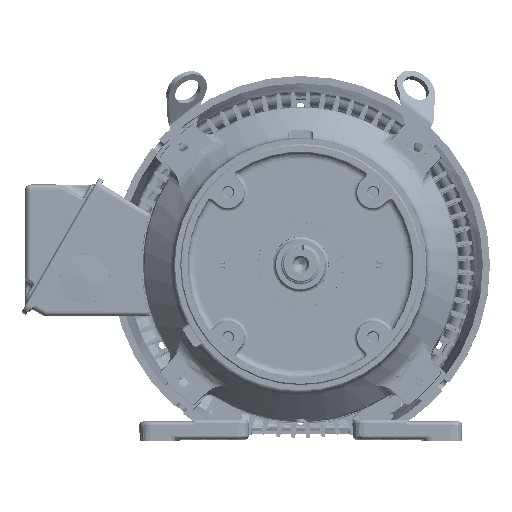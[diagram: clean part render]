
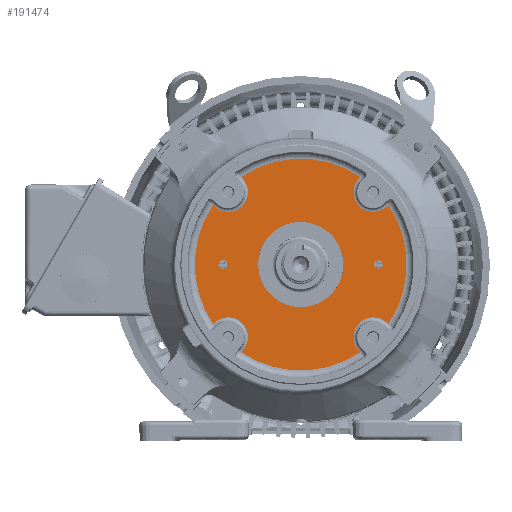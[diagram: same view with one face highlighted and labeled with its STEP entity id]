
A CAD part, top view. The second image highlights one B-rep face of the part: STEP entity #191474.
In plain terms, the highlighted planar face has unit normal (0, 0, 1) as drawn and (0, 0, -1) by its records, which use the part's own axes.
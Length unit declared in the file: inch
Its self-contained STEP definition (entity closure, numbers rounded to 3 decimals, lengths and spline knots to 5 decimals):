
#184343=CARTESIAN_POINT('',(0.,0.,-2.266));
#184344=DIRECTION('',(0.,0.,-1.));
#184345=DIRECTION('',(-0.827,-0.563,0.));
#184346=AXIS2_PLACEMENT_3D('',#184343,#184344,#184345);
#184358=CARTESIAN_POINT('',(0.,0.,-2.266));
#184359=DIRECTION('',(0.,0.,-1.));
#184360=DIRECTION('',(0.563,-0.827,0.));
#184361=AXIS2_PLACEMENT_3D('',#184358,#184359,#184360);
#184363=CARTESIAN_POINT('',(0.,0.,-2.266));
#184364=DIRECTION('',(0.,0.,-1.));
#184365=DIRECTION('',(-0.563,0.827,0.));
#184366=AXIS2_PLACEMENT_3D('',#184363,#184364,#184365);
#184373=CARTESIAN_POINT('',(0.,0.,-2.266));
#184374=DIRECTION('',(0.,0.,-1.));
#184375=DIRECTION('',(0.827,0.563,0.));
#184376=AXIS2_PLACEMENT_3D('',#184373,#184374,#184375);
#184398=CARTESIAN_POINT('',(-3.09494,-2.10574,
-2.266));
#184417=DIRECTION('',(-0.725,-0.688,
0.));
#184418=VECTOR('',#184417,0.07073);
#184419=CARTESIAN_POINT('',(-3.04364,-2.05705,-2.266));
#184420=LINE('',#184419,#184418);
#184431=CARTESIAN_POINT('',(-2.56326,-2.56326,-2.266));
#184432=DIRECTION('',(0.,0.,1.));
#184433=DIRECTION('',(0.725,-0.688,0.));
#184434=AXIS2_PLACEMENT_3D('',#184431,#184432,#184433);
#184445=DIRECTION('',(0.688,0.725,0.));
#184446=VECTOR('',#184445,0.07073);
#184447=CARTESIAN_POINT('',(-2.10574,-3.09494,
-2.266));
#184448=LINE('',#184447,#184446);
#184449=CARTESIAN_POINT('',(0.,0.,-2.266));
#184450=DIRECTION('',(0.,0.,1.));
#184451=DIRECTION('',(0.,1.,0.));
#184452=AXIS2_PLACEMENT_3D('',#184449,#184450,#184451);
#184454=CARTESIAN_POINT('',(0.,0.,-2.266));
#184455=DIRECTION('',(0.,0.,1.));
#184456=DIRECTION('',(0.,-1.,0.));
#184457=AXIS2_PLACEMENT_3D('',#184454,#184455,#184456);
#184459=CARTESIAN_POINT('',(2.75,0.,-2.266));
#184460=DIRECTION('',(0.,0.,1.));
#184461=DIRECTION('',(1.,0.,0.));
#184462=AXIS2_PLACEMENT_3D('',#184459,#184460,#184461);
#184464=CARTESIAN_POINT('',(2.75,0.,-2.266));
#184465=DIRECTION('',(0.,0.,1.));
#184466=DIRECTION('',(-1.,0.,0.));
#184467=AXIS2_PLACEMENT_3D('',#184464,#184465,#184466);
#184469=CARTESIAN_POINT('',(-2.75,0.,-2.266));
#184470=DIRECTION('',(0.,0.,1.));
#184471=DIRECTION('',(-1.,0.,0.));
#184472=AXIS2_PLACEMENT_3D('',#184469,#184470,#184471);
#184474=CARTESIAN_POINT('',(-2.75,0.,-2.266));
#184475=DIRECTION('',(0.,0.,1.));
#184476=DIRECTION('',(1.,0.,0.));
#184477=AXIS2_PLACEMENT_3D('',#184474,#184475,#184476);
#187116=DIRECTION('',(0.688,-0.725,0.));
#187117=VECTOR('',#187116,0.07073);
#187118=CARTESIAN_POINT('',(2.05705,-3.04364,-2.266));
#187119=LINE('',#187118,#187117);
#187180=CARTESIAN_POINT('',(3.09494,-2.10574,
-2.266));
#187191=DIRECTION('',(-0.725,0.688,0.));
#187192=VECTOR('',#187191,0.07073);
#187193=CARTESIAN_POINT('',(3.09494,-2.10574,
-2.266));
#187194=LINE('',#187193,#187192);
#187205=CARTESIAN_POINT('',(2.56326,-2.56326,-2.266));
#187206=DIRECTION('',(0.,0.,1.));
#187207=DIRECTION('',(0.688,0.725,0.));
#187208=AXIS2_PLACEMENT_3D('',#187205,#187206,#187207);
#187270=DIRECTION('',(0.725,0.688,0.));
#187271=VECTOR('',#187270,0.07073);
#187272=CARTESIAN_POINT('',(3.04364,2.05705,-2.266));
#187273=LINE('',#187272,#187271);
#187334=CARTESIAN_POINT('',(2.10574,3.09494,
-2.266));
#187345=DIRECTION('',(-0.688,-0.725,0.));
#187346=VECTOR('',#187345,0.07073);
#187347=CARTESIAN_POINT('',(2.10574,3.09494,
-2.266));
#187348=LINE('',#187347,#187346);
#187359=CARTESIAN_POINT('',(2.56326,2.56326,-2.266));
#187360=DIRECTION('',(0.,0.,1.));
#187361=DIRECTION('',(-0.725,0.688,0.));
#187362=AXIS2_PLACEMENT_3D('',#187359,#187360,#187361);
#187424=DIRECTION('',(-0.688,0.725,0.));
#187425=VECTOR('',#187424,0.07073);
#187426=CARTESIAN_POINT('',(-2.05705,3.04364,-2.266));
#187427=LINE('',#187426,#187425);
#187497=CARTESIAN_POINT('',(-2.56326,2.56326,-2.266));
#187498=DIRECTION('',(0.,0.,1.));
#187499=DIRECTION('',(-0.688,-0.725,0.));
#187500=AXIS2_PLACEMENT_3D('',#187497,#187498,#187499);
#187511=DIRECTION('',(0.725,-0.688,0.));
#187512=VECTOR('',#187511,0.07073);
#187513=CARTESIAN_POINT('',(-3.09494,2.10574,
-2.266));
#187514=LINE('',#187513,#187512);
#187538=CARTESIAN_POINT('',(-3.09494,2.10574,
-2.266));
#188409=VERTEX_POINT('',#184398);
#188413=CARTESIAN_POINT('',(-3.04364,-2.05705,-2.266));
#188414=VERTEX_POINT('',#188413);
#188417=CARTESIAN_POINT('',(-2.05705,-3.04364,-2.266));
#188418=VERTEX_POINT('',#188417);
#188421=CARTESIAN_POINT('',(-2.10574,-3.09494,
-2.266));
#188422=VERTEX_POINT('',#188421);
#188428=VERTEX_POINT('',#187538);
#188431=CARTESIAN_POINT('',(-3.04364,2.05705,-2.266));
#188432=VERTEX_POINT('',#188431);
#188435=CARTESIAN_POINT('',(-2.05705,3.04364,-2.266));
#188436=VERTEX_POINT('',#188435);
#188439=CARTESIAN_POINT('',(-2.10574,3.09494,
-2.266));
#188440=VERTEX_POINT('',#188439);
#188446=VERTEX_POINT('',#187334);
#188449=CARTESIAN_POINT('',(2.05705,3.04364,-2.266));
#188450=VERTEX_POINT('',#188449);
#188453=CARTESIAN_POINT('',(3.04364,2.05705,-2.266));
#188454=VERTEX_POINT('',#188453);
#188457=CARTESIAN_POINT('',(3.09494,2.10574,
-2.266));
#188458=VERTEX_POINT('',#188457);
#188464=VERTEX_POINT('',#187180);
#188467=CARTESIAN_POINT('',(3.04364,-2.05705,-2.266));
#188468=VERTEX_POINT('',#188467);
#188471=CARTESIAN_POINT('',(2.05705,-3.04364,-2.266));
#188472=VERTEX_POINT('',#188471);
#188475=CARTESIAN_POINT('',(2.10574,-3.09494,
-2.266));
#188476=VERTEX_POINT('',#188475);
#188649=CARTESIAN_POINT('',(2.9055,0.,-2.266));
#188650=CARTESIAN_POINT('',(2.5945,0.,-2.266));
#188651=VERTEX_POINT('',#188649);
#188652=VERTEX_POINT('',#188650);
#188653=CARTESIAN_POINT('',(-2.9055,0.,-2.266));
#188654=CARTESIAN_POINT('',(-2.5945,0.,-2.266));
#188655=VERTEX_POINT('',#188653);
#188656=VERTEX_POINT('',#188654);
#188850=CARTESIAN_POINT('',(0.,1.5075,-2.266));
#188851=CARTESIAN_POINT('',(0.,-1.5075,-2.266));
#188852=VERTEX_POINT('',#188850);
#188853=VERTEX_POINT('',#188851);
#191424=CARTESIAN_POINT('',(0.,0.,-2.266));
#191425=DIRECTION('',(0.,0.,1.));
#191426=DIRECTION('',(0.,1.,0.));
#191427=AXIS2_PLACEMENT_3D('',#191424,#191425,#191426);
#191428=PLANE('',#191427);
#191429=ORIENTED_EDGE('',*,*,#191391,.F.);
#191430=ORIENTED_EDGE('',*,*,#191405,.F.);
#191431=ORIENTED_EDGE('',*,*,#191418,.F.);
#191432=ORIENTED_EDGE('',*,*,#191299,.F.);
#191434=ORIENTED_EDGE('',*,*,#191433,.F.);
#191436=ORIENTED_EDGE('',*,*,#191435,.F.);
#191438=ORIENTED_EDGE('',*,*,#191437,.F.);
#191439=ORIENTED_EDGE('',*,*,#191326,.F.);
#191441=ORIENTED_EDGE('',*,*,#191440,.F.);
#191443=ORIENTED_EDGE('',*,*,#191442,.F.);
#191445=ORIENTED_EDGE('',*,*,#191444,.F.);
#191446=ORIENTED_EDGE('',*,*,#191311,.F.);
#191448=ORIENTED_EDGE('',*,*,#191447,.F.);
#191450=ORIENTED_EDGE('',*,*,#191449,.F.);
#191452=ORIENTED_EDGE('',*,*,#191451,.F.);
#191453=ORIENTED_EDGE('',*,*,#191282,.F.);
#191454=EDGE_LOOP('',(#191429,#191430,#191431,#191432,#191434,#191436,#191438,
#191439,#191441,#191443,#191445,#191446,#191448,#191450,#191452,#191453));
#191455=FACE_OUTER_BOUND('',#191454,.F.);
#191457=ORIENTED_EDGE('',*,*,#191456,.F.);
#191459=ORIENTED_EDGE('',*,*,#191458,.F.);
#191460=EDGE_LOOP('',(#191457,#191459));
#191461=FACE_BOUND('',#191460,.F.);
#191463=ORIENTED_EDGE('',*,*,#191462,.F.);
#191465=ORIENTED_EDGE('',*,*,#191464,.F.);
#191466=EDGE_LOOP('',(#191463,#191465));
#191467=FACE_BOUND('',#191466,.F.);
#191469=ORIENTED_EDGE('',*,*,#191468,.F.);
#191471=ORIENTED_EDGE('',*,*,#191470,.F.);
#191472=EDGE_LOOP('',(#191469,#191471));
#191473=FACE_BOUND('',#191472,.F.);
#191474=ADVANCED_FACE('',(#191455,#191461,#191467,#191473),#191428,.F.);
#184347=CIRCLE('',#184346,3.74337);
#184362=CIRCLE('',#184361,3.74337);
#184367=CIRCLE('',#184366,3.74337);
#184377=CIRCLE('',#184376,3.74337);
#184435=CIRCLE('',#184434,0.69786);
#184453=CIRCLE('',#184452,1.5075);
#184458=CIRCLE('',#184457,1.5075);
#184463=CIRCLE('',#184462,0.1555);
#184468=CIRCLE('',#184467,0.1555);
#184473=CIRCLE('',#184472,0.1555);
#184478=CIRCLE('',#184477,0.1555);
#187209=CIRCLE('',#187208,0.69786);
#187363=CIRCLE('',#187362,0.69786);
#187501=CIRCLE('',#187500,0.69786);
#191282=EDGE_CURVE('',#188409,#188428,#184347,.T.);
#191299=EDGE_CURVE('',#188476,#188422,#184362,.T.);
#191311=EDGE_CURVE('',#188440,#188446,#184367,.T.);
#191326=EDGE_CURVE('',#188458,#188464,#184377,.T.);
#191391=EDGE_CURVE('',#188414,#188409,#184420,.T.);
#191405=EDGE_CURVE('',#188418,#188414,#184435,.T.);
#191418=EDGE_CURVE('',#188422,#188418,#184448,.T.);
#191433=EDGE_CURVE('',#188472,#188476,#187119,.T.);
#191435=EDGE_CURVE('',#188468,#188472,#187209,.T.);
#191437=EDGE_CURVE('',#188464,#188468,#187194,.T.);
#191440=EDGE_CURVE('',#188454,#188458,#187273,.T.);
#191442=EDGE_CURVE('',#188450,#188454,#187363,.T.);
#191444=EDGE_CURVE('',#188446,#188450,#187348,.T.);
#191447=EDGE_CURVE('',#188436,#188440,#187427,.T.);
#191449=EDGE_CURVE('',#188432,#188436,#187501,.T.);
#191451=EDGE_CURVE('',#188428,#188432,#187514,.T.);
#191456=EDGE_CURVE('',#188651,#188652,#184463,.T.);
#191458=EDGE_CURVE('',#188652,#188651,#184468,.T.);
#191462=EDGE_CURVE('',#188655,#188656,#184473,.T.);
#191464=EDGE_CURVE('',#188656,#188655,#184478,.T.);
#191468=EDGE_CURVE('',#188852,#188853,#184453,.T.);
#191470=EDGE_CURVE('',#188853,#188852,#184458,.T.);
